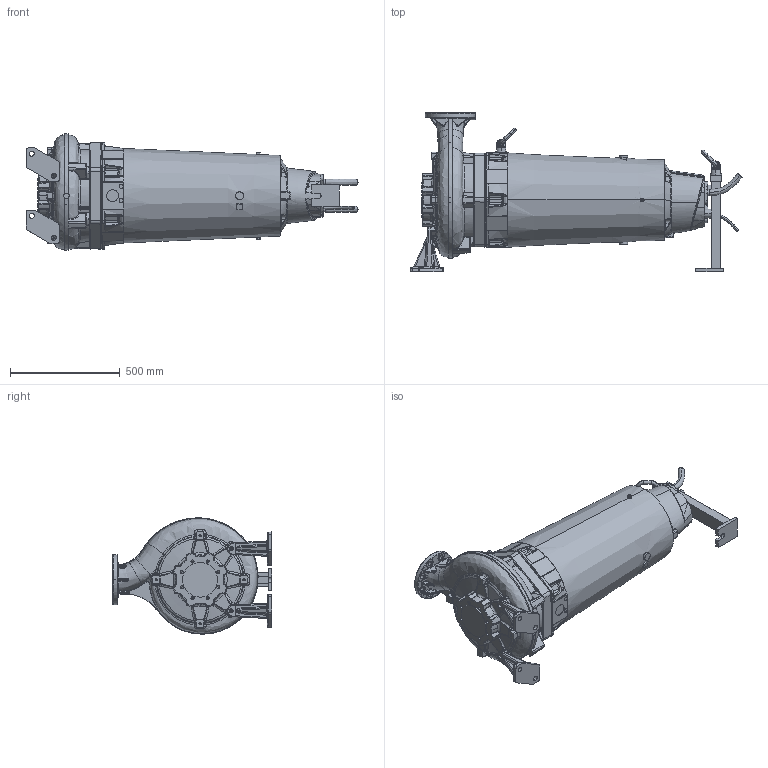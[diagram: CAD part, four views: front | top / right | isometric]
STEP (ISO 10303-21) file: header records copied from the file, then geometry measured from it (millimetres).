
FILE_DESCRIPTION (( 'STEP AP214' ), '1' );
FILE_NAME ('PE4_XFP100J-CH1_DRY HA_B_NG2.STEP', '2017-02-23T07:21:21', ( '' ), ( '' ), 'SwSTEP 2.0', 'SolidWorks 2017', '' );
FILE_SCHEMA (( 'AUTOMOTIVE_DESIGN' ));
Length unit declared in the file: millimetre
Products named in the file (1): PE4_XFP100J-CH1_DRY HA_B_NG2
Bounding box: 1510.38 x 726.42 x 529.04 mm (x, y, z)
Volume: 161610500.7 mm3; surface area: 2514545.9 mm2
Topology: 6 solids, 6 shells, 2216 faces, 5473 edges, 3245 vertices
Faces by surface type: bspline 754, cylinder 504, plane 463, cone 232, torus 185, sphere 78
Entity records: 155531 total; most frequent: CARTESIAN_POINT 85097, ORIENTED_EDGE 10814, DIRECTION 8241, EDGE_CURVE 5407, AXIS2_PLACEMENT_3D 3424, VERTEX_POINT 3241, EDGE_LOOP 2294, UNCERTAINTY_MEASURE_WITH_UNIT 2224
